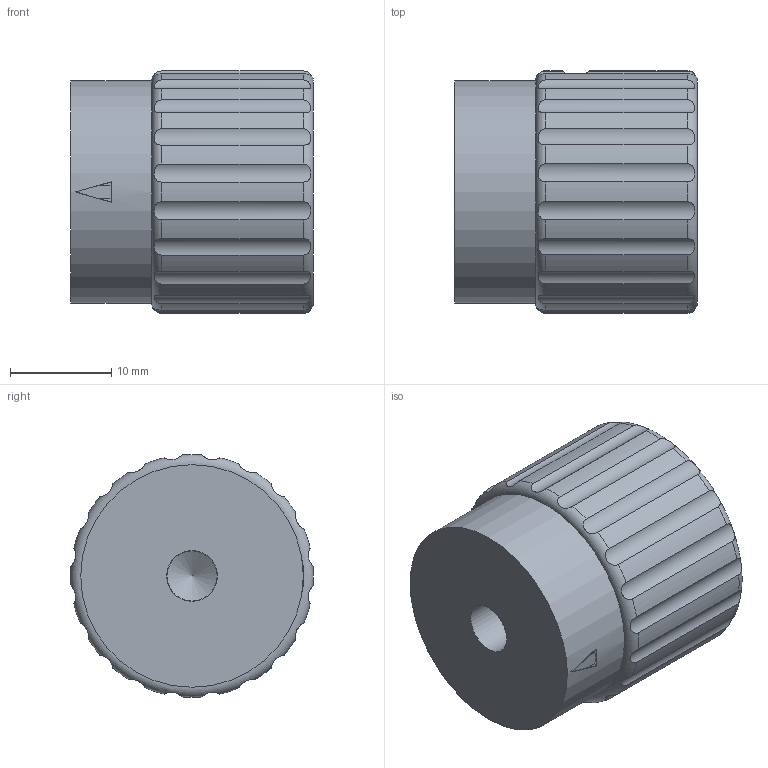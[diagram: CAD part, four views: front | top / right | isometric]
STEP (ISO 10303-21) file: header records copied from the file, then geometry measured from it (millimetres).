
FILE_DESCRIPTION( ( 'STEP AP203' ), '1' );
FILE_NAME( 'C:/Temp/Ganter_Step_05_03_2020/data/1_4/gn_436_1/gn_436_1_a/Stainless Steel-Control knob GN 436.1-24-B5-A-MT.stp', '2020-03-05T10:48:41', ( 'License CC BY-ND 4.0' ), ( 'CADENAS' ), ' ', 'PARTsolutions', ' ' );
FILE_SCHEMA( ( 'CONFIG_CONTROL_DESIGN' ) );
Length unit declared in the file: millimetre
Products named in the file (1): _Stainless Steel-Control knob GN 436.1-24-B5-A-MT
Bounding box: 24 x 24 x 24 mm (x, y, z)
Volume: 9689.7 mm3; surface area: 2998.2 mm2
Topology: 1 solids, 1 shells, 69 faces, 188 edges, 125 vertices
Faces by surface type: cylinder 46, plane 18, cone 3, torus 2
Full cylindrical faces by diameter (mm): 3.242 x2, 4.96 x1, 5 x1, 22 x1
Entity records: 2810 total; most frequent: CARTESIAN_POINT 1137, ORIENTED_EDGE 342, DIRECTION 320, EDGE_CURVE 171, AXIS2_PLACEMENT_3D 124, VERTEX_POINT 119, EDGE_LOOP 83, FACE_OUTER_BOUND 76
